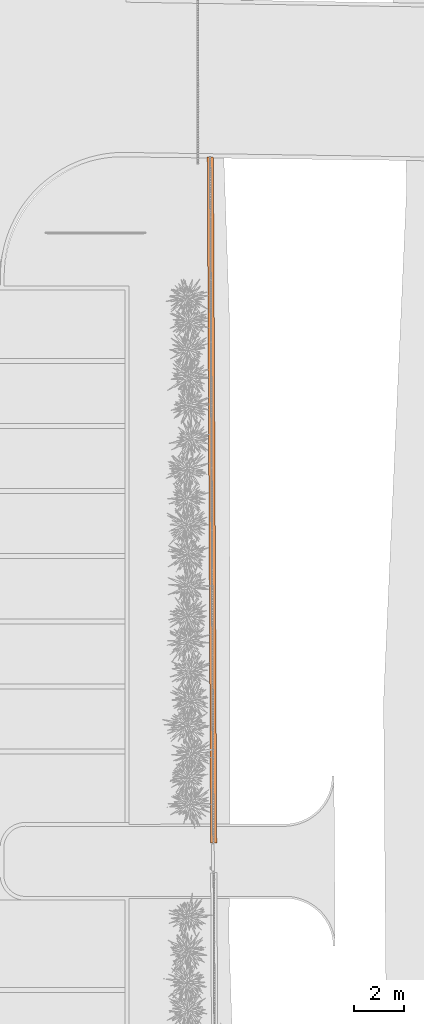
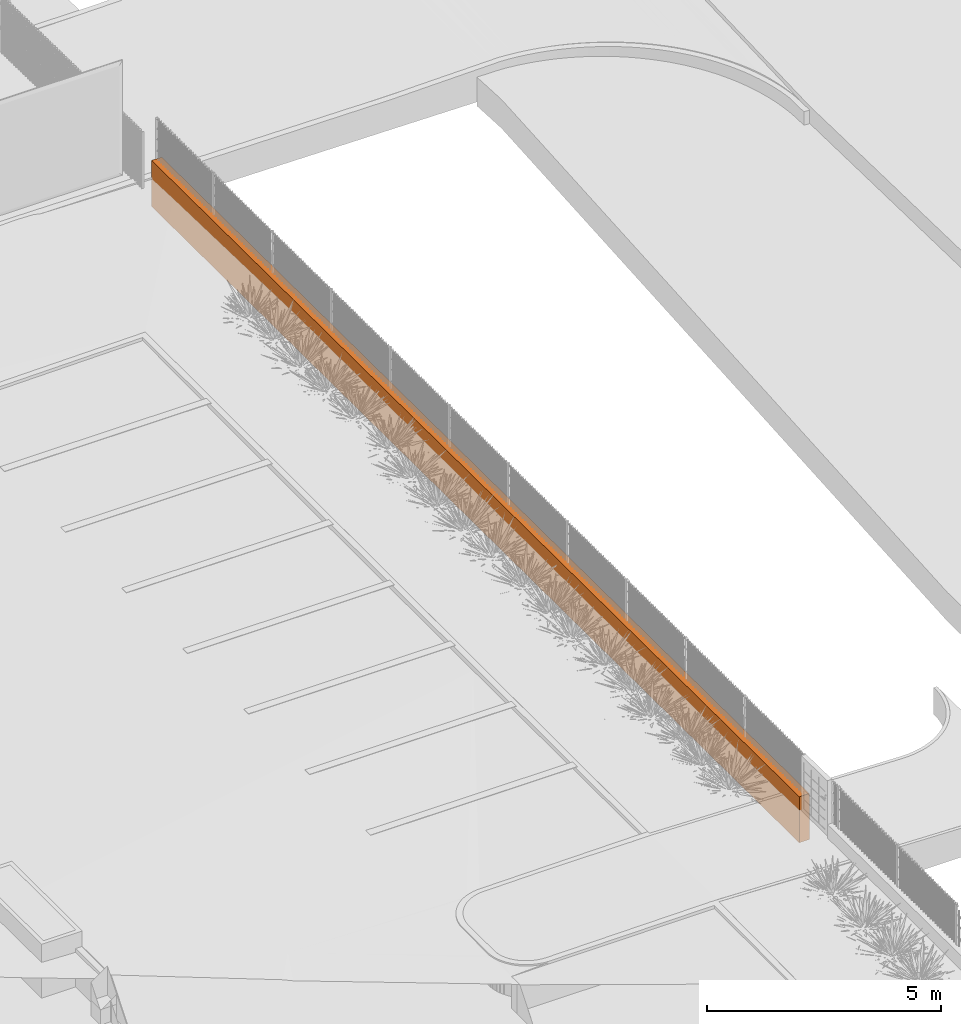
# One storey, part 31 of 1809: 1 proxy.
"""IFC2X3 building model written with IfcOpenShell, lengths in millimetres."""

from ifc_helpers import new_model, entity, si_unit, converted_unit, derived_unit, money_unit, direction, frame, origin_with_axes, place, context, subcontext, project, spatial, polyline, outline, extrude, material, type_object, element, save


model = new_model("IFC2X3")

# Units and contexts
model_context = context("Model", 3, precision=0.01, world=origin_with_axes(), true_north=direction((0.0, 1.0)))
body_context = subcontext(model_context, "Body", "Model", "MODEL_VIEW")
ifc_project = project(units=[si_unit("LENGTHUNIT", "METRE", prefix="MILLI"), si_unit("AREAUNIT", "SQUARE_METRE"), si_unit("VOLUMEUNIT", "CUBIC_METRE"), converted_unit("PLANEANGLEUNIT", "DEGREE", entity("IfcPlaneAngleMeasure", 0.0174532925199), si_unit("PLANEANGLEUNIT", "RADIAN"), dimensions=[0, 0, 0, 0, 0, 0, 0]), si_unit("SOLIDANGLEUNIT", "STERADIAN"), money_unit("EUR"), converted_unit("TIMEUNIT", "Year", entity("IfcTimeMeasure", 31556926.0), si_unit("TIMEUNIT", "SECOND"), dimensions=[0, 0, 1, 0, 0, 0, 0]), si_unit("MASSUNIT", "GRAM", prefix="KILO"), si_unit("THERMODYNAMICTEMPERATUREUNIT", "DEGREE_CELSIUS"), si_unit("LUMINOUSINTENSITYUNIT", "LUMEN"), si_unit("ENERGYUNIT", "JOULE", prefix="MEGA"), derived_unit("THERMALCONDUCTANCEUNIT", [(si_unit("POWERUNIT", "WATT"), 1), (si_unit("LENGTHUNIT", "METRE"), -1), (si_unit("THERMODYNAMICTEMPERATUREUNIT", "KELVIN"), -1)]), derived_unit("SPECIFICHEATCAPACITYUNIT", [(si_unit("ENERGYUNIT", "JOULE"), 1), (si_unit("MASSUNIT", "GRAM", prefix="KILO"), -1), (si_unit("THERMODYNAMICTEMPERATUREUNIT", "KELVIN"), -1)]), derived_unit("MASSDENSITYUNIT", [(si_unit("MASSUNIT", "GRAM", prefix="KILO"), 1), (si_unit("VOLUMEUNIT", "CUBIC_METRE"), -1)])], contexts=[model_context])

# Site, building, storey
site_placement = place(None, origin_with_axes())
site = spatial("IfcSite", under=ifc_project, at=site_placement, Name="Politse- ja Piirivalveameti ning Päästeameti ühishoone", CompositionType="ELEMENT")
building_placement = place(site_placement, origin_with_axes())
building = spatial("IfcBuilding", under=site, at=building_placement, Name="Politse- ja Piirivalveameti ning Päästeameti ühishoone", CompositionType="ELEMENT")
storey_placement = place(building_placement, origin_with_axes())
storey = spatial("IfcBuildingStorey", under=building, at=storey_placement, Name="Esimene korrus", CompositionType="ELEMENT", Elevation=0.0)

# Proxy
ifc_material = material(Name="SKR-04_Puitplaat")
building_element_proxy_type = type_object("IfcBuildingElementProxyType", Name="SKR-04_Puitplaat 1200", PredefinedType="NOTDEFINED")
proxy_placement = place(storey_placement, frame((89026.4611105, 13739.3577155, 177.658412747), z_axis=(0.0, 0.0, 1.0), x_axis=(1.0, 0.0, 0.0)))
element("IfcBuildingElementProxy", 1, at=proxy_placement, inside=storey, type_object=building_element_proxy_type, material=ifc_material, Name="PIIRDEAED", context=body_context, shape_type="SweptSolid", body=[
    extrude(outline(polyline([(0.0, 0.0), (250.466097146, 1.19971809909), (118.700411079, 27412.9314982), (-131.327835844, 27417.4149947), (0.0, 0.0)])), frame((0.0, 0.0, -1200.0), z_axis=(0.0, 0.0, 1.0), x_axis=(1.0, 0.0, 0.0)), (0.0, 0.0, 1.0), 1200.0),
])

save(model, "model.ifc")
